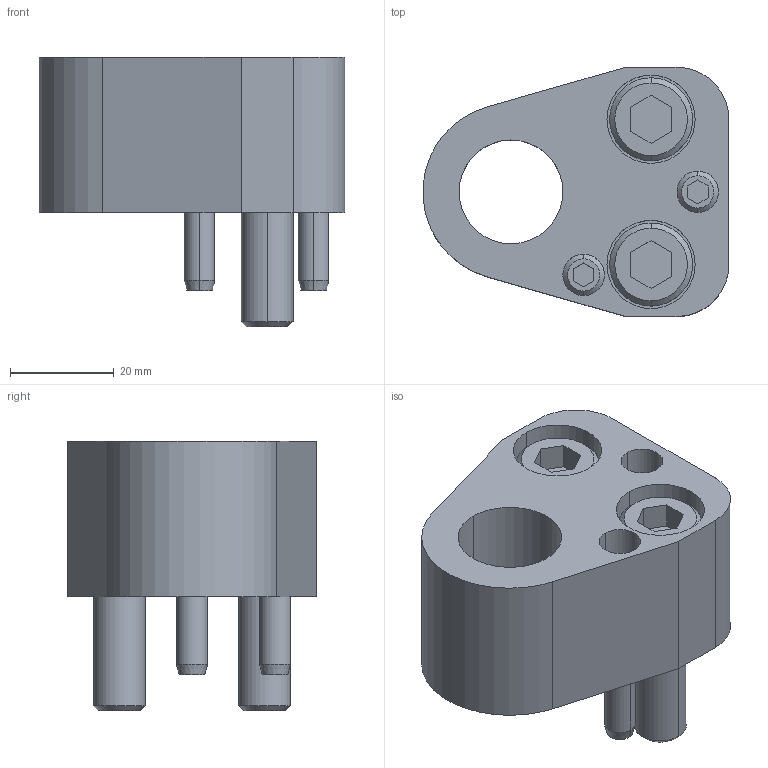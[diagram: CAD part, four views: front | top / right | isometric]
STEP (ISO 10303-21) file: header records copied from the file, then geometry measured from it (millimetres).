
FILE_DESCRIPTION(/* description */ (''),/* implementation_level */ '2;1');
FILE_NAME(/* name */ '3d_cpar20_02845_r00.stp',/* time_stamp */ '2011-01-10T14:16:26+09:00',/* author */ ('MISUMI'),/* organization */ (''),/* preprocessor_version */ 'ST-DEVELOPER v11',/* originating_system */ 'UGS - NX 5.0',/* authorisation */ '');
FILE_SCHEMA (('CONFIG_CONTROL_DESIGN'));
Length unit declared in the file: millimetre
Products named in the file (1): 3d_cpar20_02845_r00
Bounding box: 58.94 x 48 x 52 mm (x, y, z)
Volume: 59174 mm3; surface area: 21206.6 mm2
Topology: 7 solids, 7 shells, 135 faces, 292 edges, 186 vertices
Faces by surface type: plane 60, cylinder 49, cone 26
Entity records: 3816 total; most frequent: DIRECTION 684, CARTESIAN_POINT 662, ORIENTED_EDGE 584, EDGE_CURVE 292, AXIS2_PLACEMENT_3D 260, VERTEX_POINT 186, LINE 164, VECTOR 164
